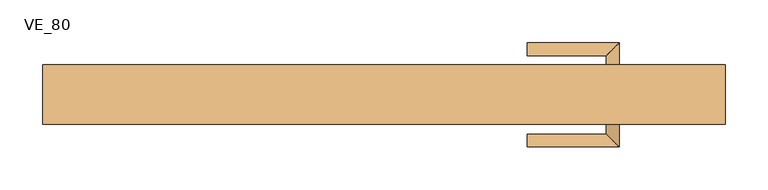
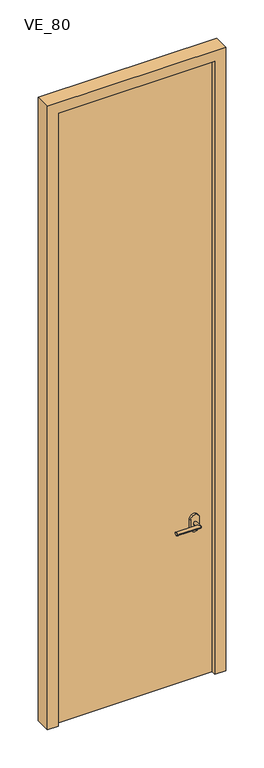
"""IFC4 building model written with IfcOpenShell, lengths in millimetres: door geometry, TRP_CP_ARC_PO_1B_PV : VE_80."""

from ifc_helpers import new_model, si_unit, point, frame, frame_2d, origin, origin_with_axes, place, context, project, spatial, polyline, circle_curve, ellipse_curve, trimmed, segment, composite_curve, outline, extrude, source, transform, mapped, element, save
from ifc_brep_helpers import plane_surface, cylinder_surface, advanced_brep


def ve_80_916fddef(model_context):
    return source(origin(), model_context, "Body", "SolidModel", [
        advanced_brep(
        [(260.6231001, 25.0, 740.0), (275.6231001, 25.0, 740.0), (275.6231001, 60.8278773, 740.0), (260.6231001, 45.8278773, 740.0), (168.1231001, 45.8278773, 740.0), (168.1231001, 60.8278773, 740.0)],
        [
            (0, 1, circle_curve(frame((268.1231001, 25.0, 740.0), z_axis=(0.0, -1.0, 0.0), x_axis=(1.0, 0.0, 0.0)), 7.5)),
            (1, 0, circle_curve(frame((268.1231001, 25.0, 740.0), z_axis=(0.0, -1.0, 0.0), x_axis=(1.0, 0.0, 0.0)), 7.5)),
            (1, 2),
            (2, 3, ellipse_curve(frame((268.1231001, 53.3278773, 740.0), z_axis=(0.7071067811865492, -0.7071067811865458, 0.0), x_axis=(-0.7071067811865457, -0.7071067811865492, 0.0)), 10.6066017, 7.5)),
            (3, 0),
            (3, 2, ellipse_curve(frame((268.1231001, 53.3278773, 740.0), z_axis=(0.7071067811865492, -0.7071067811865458, 0.0), x_axis=(-0.7071067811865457, -0.7071067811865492, 0.0)), 10.6066017, 7.5)),
            (4, 5, circle_curve(frame((168.1231001, 53.3278773, 740.0), z_axis=(-1.0, 0.0, 0.0), x_axis=(0.0, 1.0, 0.0)), 7.5)),
            (5, 4, circle_curve(frame((168.1231001, 53.3278773, 740.0), z_axis=(-1.0, 0.0, 0.0), x_axis=(0.0, 1.0, 0.0)), 7.5)),
            (2, 5),
            (4, 3),
        ],
        [
            plane_surface(frame((268.1231001, 25.0, 740.0), z_axis=(0.0, -1.0, 0.0), x_axis=(0.0, 0.0, 1.0))),
            cylinder_surface(frame((268.1231001, 25.0, 740.0), z_axis=(0.0, -1.0, 0.0), x_axis=(1.0, 0.0, 0.0)), 7.5),
            plane_surface(frame((168.1231001, 53.3278773, 740.0), z_axis=(-1.0, 0.0, 0.0), x_axis=(0.0, 0.0, 1.0))),
            cylinder_surface(frame((268.1231001, 53.3278773, 740.0), z_axis=(1.0, 0.0, 0.0), x_axis=(0.0, 1.0, 0.0)), 7.5),
        ],
        [
            (0, [[1, 2]]),
            (1, [[3, 4, 5, -2]]),
            (1, [[-5, 6, -3, -1]]),
            (2, [[7, 8]]),
            (3, [[9, -7, 10, -4]]),
            (3, [[-10, -8, -9, -6]]),
        ],
    ),
        extrude(outline(composite_curve([segment(trimmed(circle_curve(frame_2d((760.0, 268.1231001)), 20.0), [point((760.0, 288.1231001))], [point((760.0, 248.1231001))], False, "CARTESIAN"), True, "CONTINUOUS"), segment(polyline([(760.0, 248.1231001), (720.0, 248.1231001)]), True, "CONTINUOUS"), segment(trimmed(circle_curve(frame_2d((720.0, 268.1231001)), 20.0), [point((720.0, 248.1231001))], [point((720.0, 288.1231001))], False, "CARTESIAN"), True, "CONTINUOUS"), segment(polyline([(720.0, 288.1231001), (760.0, 288.1231001)]), True, "CONTINUOUS")], self_intersect=False)), frame((0.0, 15.0, 0.0), z_axis=(0.0, 1.0, 0.0), x_axis=(0.0, 0.0, 1.0)), (0.0, 0.0, 1.0), 10.0),
        advanced_brep(
        [(260.6231001, -25.0, 740.0), (275.6231001, -25.0, 740.0), (260.6231001, -45.8278773, 740.0), (275.6231001, -60.8278773, 740.0), (168.1231001, -45.8278773, 740.0), (168.1231001, -60.8278773, 740.0)],
        [
            (0, 1, circle_curve(frame((268.1231001, -25.0, 740.0), z_axis=(0.0, 1.0, 0.0), x_axis=(1.0, 0.0, 0.0)), 7.5)),
            (1, 0, circle_curve(frame((268.1231001, -25.0, 740.0), z_axis=(0.0, 1.0, 0.0), x_axis=(1.0, 0.0, 0.0)), 7.5)),
            (0, 2),
            (2, 3, ellipse_curve(frame((268.1231001, -53.3278773, 740.0), z_axis=(0.7071067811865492, 0.7071067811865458, 0.0), x_axis=(-0.7071067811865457, 0.7071067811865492, 0.0)), 10.6066017, 7.5)),
            (3, 1),
            (3, 2, ellipse_curve(frame((268.1231001, -53.3278773, 740.0), z_axis=(0.7071067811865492, 0.7071067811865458, 0.0), x_axis=(-0.7071067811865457, 0.7071067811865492, 0.0)), 10.6066017, 7.5)),
            (4, 5, circle_curve(frame((168.1231001, -53.3278773, 740.0), z_axis=(-1.0, 0.0, 0.0), x_axis=(0.0, -1.0, 0.0)), 7.5)),
            (5, 4, circle_curve(frame((168.1231001, -53.3278773, 740.0), z_axis=(-1.0, 0.0, 0.0), x_axis=(0.0, -1.0, 0.0)), 7.5)),
            (2, 4),
            (5, 3),
        ],
        [
            plane_surface(frame((268.1231001, -25.0, 740.0), z_axis=(0.0, 1.0, 0.0), x_axis=(0.0, 0.0, 1.0))),
            cylinder_surface(frame((268.1231001, -25.0, 740.0), z_axis=(0.0, 1.0, 0.0), x_axis=(1.0, 0.0, 0.0)), 7.5),
            plane_surface(frame((168.1231001, -53.3278773, 740.0), z_axis=(-1.0, 0.0, 0.0), x_axis=(0.0, 0.0, 1.0))),
            cylinder_surface(frame((268.1231001, -53.3278773, 740.0), z_axis=(1.0, 0.0, 0.0), x_axis=(0.0, -1.0, 0.0)), 7.5),
        ],
        [
            (0, [[1, 2]]),
            (1, [[-1, 3, 4, 5]]),
            (1, [[-2, -5, 6, -3]]),
            (2, [[7, 8]]),
            (3, [[-4, 9, -8, 10]]),
            (3, [[-6, -10, -7, -9]]),
        ],
    ),
        extrude(outline(composite_curve([segment(trimmed(circle_curve(frame_2d((760.0, 268.1231001)), 20.0), [point((760.0, 288.1231001))], [point((760.0, 248.1231001))], False, "CARTESIAN"), True, "CONTINUOUS"), segment(polyline([(760.0, 248.1231001), (720.0, 248.1231001)]), True, "CONTINUOUS"), segment(trimmed(circle_curve(frame_2d((720.0, 268.1231001)), 20.0), [point((720.0, 248.1231001))], [point((720.0, 288.1231001))], False, "CARTESIAN"), True, "CONTINUOUS"), segment(polyline([(720.0, 288.1231001), (760.0, 288.1231001)]), True, "CONTINUOUS")], self_intersect=False)), frame((0.0, -25.0, 0.0), z_axis=(0.0, 1.0, 0.0), x_axis=(0.0, 0.0, 1.0)), (0.0, 0.0, 1.0), 10.0),
        extrude(outline(polyline([(350.0, -15.0), (-350.0, -15.0), (-350.0, 15.0), (350.0, 15.0), (350.0, -15.0)])), origin_with_axes(), (0.0, 0.0, 1.0), 2905.0),
        extrude(outline(polyline([(0.0, 350.0), (0.0, 400.0), (2955.0, 400.0), (2955.0, -400.0), (0.0, -400.0), (0.0, -350.0), (2905.0, -350.0), (2905.0, 350.0), (0.0, 350.0)])), frame((0.0, -35.0, 0.0), z_axis=(0.0, 1.0, 0.0), x_axis=(0.0, 0.0, 1.0)), (0.0, 0.0, 1.0), 70.0),
    ])


if __name__ == "__main__":
    model = new_model("IFC4")
    model_context = context("Model", 3, world=origin())
    ifc_project = project(units=[si_unit("LENGTHUNIT", "METRE", prefix="MILLI")], contexts=[model_context])
    site = spatial("IfcSite", under=ifc_project)
    building = spatial("IfcBuilding", under=site)
    placement = place(None, origin())
    ve_80_shape = ve_80_916fddef(model_context)
    element("IfcDoor", 1, ObjectType="TRP_CP_ARC_PO_1B_PV : VE_80", at=placement, inside=building, context=model_context, shape_type="MappedRepresentation", body=[
        mapped(ve_80_shape, transform((0.0, 0.0, 0.0), x_axis=(1.0, 0.0, 0.0), y_axis=(0.0, 1.0, 0.0), z_axis=(0.0, 0.0, 1.0))),
    ])
    save(model, "model.ifc")
